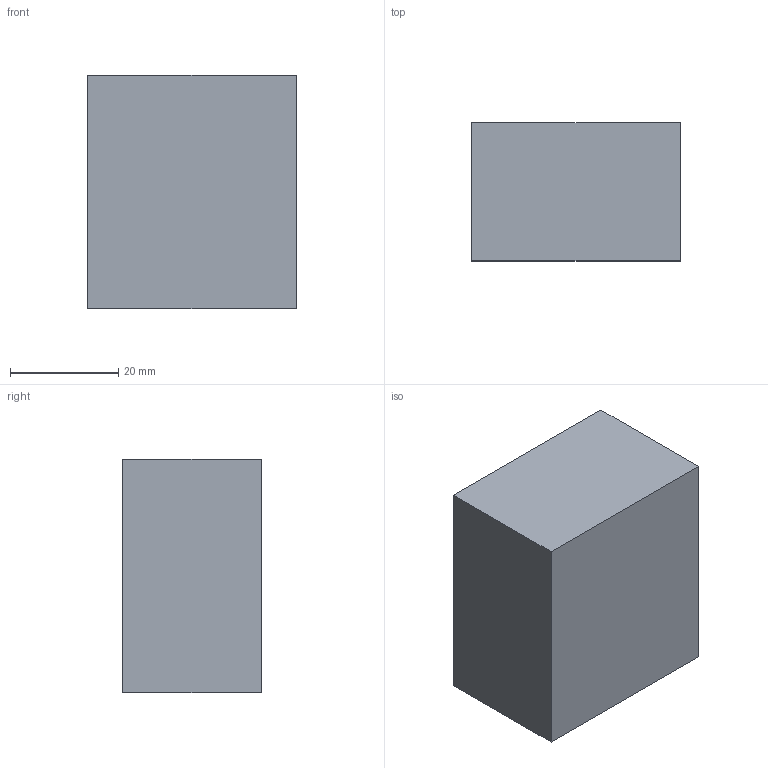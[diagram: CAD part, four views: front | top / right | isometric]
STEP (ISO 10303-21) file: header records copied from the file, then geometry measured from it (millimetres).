
FILE_DESCRIPTION(('Open CASCADE Model'),'2;1');
FILE_NAME('Open CASCADE Shape Model','2026-09-13T14:18:01',('Author'),( 'Open CASCADE'),'Open CASCADE STEP processor 7.9','Open CASCADE 7.9' ,'Unknown');
FILE_SCHEMA(('AUTOMOTIVE_DESIGN { 1 0 10303 214 1 1 1 1 }'));
Length unit declared in the file: millimetre
Products named in the file (1): Open CASCADE STEP translator 7.9 9
Bounding box: 38.5 x 25.5 x 43 mm (x, y, z)
Volume: 42215.2 mm3; surface area: 7467.5 mm2
Topology: 1 solids, 1 shells, 6 faces, 12 edges, 8 vertices
Faces by surface type: plane 6
Entity records: 322 total; most frequent: CARTESIAN_POINT 51, DIRECTION 50, LINE 36, VECTOR 36, ORIENTED_EDGE 24, PCURVE 24, DEFINITIONAL_REPRESENTATION 24, EDGE_CURVE 12
